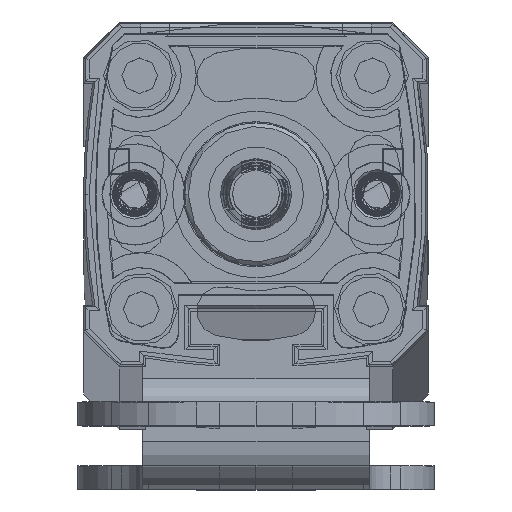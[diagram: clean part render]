
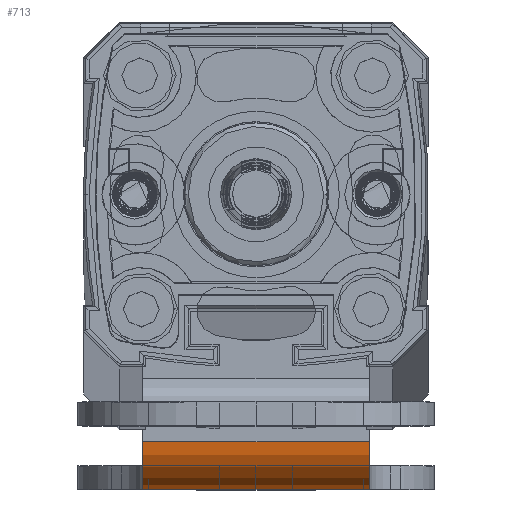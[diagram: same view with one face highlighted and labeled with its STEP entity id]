
A CAD part, top view. The second image highlights one B-rep face of the part: STEP entity #713.
In plain terms, the highlighted cylindrical face has radius 4 mm (diameter 8 mm), a partial arc.
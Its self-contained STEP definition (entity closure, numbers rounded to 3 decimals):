
#713 = ADVANCED_FACE ( 'NONE', ( #1710 ), #20596, .T. ) ;
#908 = DIRECTION ( 'NONE',  ( 1., 0., 0. ) ) ;
#1710 = FACE_OUTER_BOUND ( 'NONE', #4599, .T. ) ;
#2013 = ORIENTED_EDGE ( 'NONE', *, *, #13775, .F. ) ;
#2686 = LINE ( 'NONE', #14494, #30267 ) ;
#3778 = ORIENTED_EDGE ( 'NONE', *, *, #9357, .T. ) ;
#3940 = CARTESIAN_POINT ( 'NONE',  ( -9.512, -13., -173.797 ) ) ;
#4599 = EDGE_LOOP ( 'NONE', ( #2013, #24202, #9911, #22089, #16501, #3778 ) ) ;
#7099 = EDGE_CURVE ( 'NONE', #19679, #13654, #19650, .T. ) ;
#8502 = VERTEX_POINT ( 'NONE', #10909 ) ;
#8625 = CARTESIAN_POINT ( 'NONE',  ( 0., -9., -174. ) ) ;
#8843 = DIRECTION ( 'NONE',  ( -1., 0., 0. ) ) ;
#8938 = CARTESIAN_POINT ( 'NONE',  ( -9.5, -12.953, -173.392 ) ) ;
#9357 = EDGE_CURVE ( 'NONE', #10771, #27671, #16035, .T. ) ;
#9911 = ORIENTED_EDGE ( 'NONE', *, *, #27049, .F. ) ;
#10604 = CARTESIAN_POINT ( 'NONE',  ( 9.537, -13., -174. ) ) ;
#10743 = CIRCLE ( 'NONE', #29413, 4. ) ;
#10771 = VERTEX_POINT ( 'NONE', #13892 ) ;
#10872 = EDGE_CURVE ( 'NONE', #8502, #10771, #2686, .T. ) ;
#10909 = CARTESIAN_POINT ( 'NONE',  ( -9.537, -13., -174. ) ) ;
#11474 = CARTESIAN_POINT ( 'NONE',  ( -9.5, -9., -170. ) ) ;
#12563 = AXIS2_PLACEMENT_3D ( 'NONE', #30051, #8843, #15896 ) ;
#13098 = AXIS2_PLACEMENT_3D ( 'NONE', #8625, #17683, #15386 ) ;
#13334 = CARTESIAN_POINT ( 'NONE',  ( 9.5, -12.953, -173.392 ) ) ;
#13654 = VERTEX_POINT ( 'NONE', #22123 ) ;
#13775 = EDGE_CURVE ( 'NONE', #13654, #27671, #10743, .T. ) ;
#13892 = CARTESIAN_POINT ( 'NONE',  ( 9.537, -13., -174. ) ) ;
#14494 = CARTESIAN_POINT ( 'NONE',  ( 0., -13., -174. ) ) ;
#15019 = CIRCLE ( 'NONE', #12563, 4. ) ;
#15198 = CARTESIAN_POINT ( 'NONE',  ( 0., -9., -170. ) ) ;
#15306 = CARTESIAN_POINT ( 'NONE',  ( -9.5, -12.985, -173.594 ) ) ;
#15357 = DIRECTION ( 'NONE',  ( 1., 0., 0. ) ) ;
#15386 = DIRECTION ( 'NONE',  ( 0., 0., -1. ) ) ;
#15757 = CARTESIAN_POINT ( 'NONE',  ( -9.5, -12.953, -173.392 ) ) ;
#15896 = DIRECTION ( 'NONE',  ( 0., 0., -1. ) ) ;
#16035 = B_SPLINE_CURVE_WITH_KNOTS ( 'NONE', 3,
 ( #10604, #27065, #27213, #26908 ),
 .UNSPECIFIED., .F., .F.,
 ( 4, 4 ),
 ( 0., 0.001 ),
 .UNSPECIFIED. ) ;
#16501 = ORIENTED_EDGE ( 'NONE', *, *, #10872, .T. ) ;
#17683 = DIRECTION ( 'NONE',  ( 1., 0., 0. ) ) ;
#18255 = CARTESIAN_POINT ( 'NONE',  ( 9.5, -9., -174. ) ) ;
#19106 = DIRECTION ( 'NONE',  ( 1., 0., 0. ) ) ;
#19650 = LINE ( 'NONE', #15198, #28061 ) ;
#19679 = VERTEX_POINT ( 'NONE', #11474 ) ;
#20596 = CYLINDRICAL_SURFACE ( 'NONE', #13098, 4. ) ;
#22089 = ORIENTED_EDGE ( 'NONE', *, *, #28247, .T. ) ;
#22123 = CARTESIAN_POINT ( 'NONE',  ( 9.5, -9., -170. ) ) ;
#24202 = ORIENTED_EDGE ( 'NONE', *, *, #7099, .F. ) ;
#24697 = CARTESIAN_POINT ( 'NONE',  ( -9.537, -13., -174. ) ) ;
#25572 = B_SPLINE_CURVE_WITH_KNOTS ( 'NONE', 3,
 ( #15757, #15306, #3940, #24697 ),
 .UNSPECIFIED., .F., .F.,
 ( 4, 4 ),
 ( 0., 0.001 ),
 .UNSPECIFIED. ) ;
#26908 = CARTESIAN_POINT ( 'NONE',  ( 9.5, -12.953, -173.392 ) ) ;
#27049 = EDGE_CURVE ( 'NONE', #29471, #19679, #15019, .T. ) ;
#27065 = CARTESIAN_POINT ( 'NONE',  ( 9.512, -13., -173.797 ) ) ;
#27213 = CARTESIAN_POINT ( 'NONE',  ( 9.5, -12.985, -173.594 ) ) ;
#27354 = DIRECTION ( 'NONE',  ( 0., 0., -1. ) ) ;
#27671 = VERTEX_POINT ( 'NONE', #13334 ) ;
#28061 = VECTOR ( 'NONE', #908, 1000. ) ;
#28247 = EDGE_CURVE ( 'NONE', #29471, #8502, #25572, .T. ) ;
#29413 = AXIS2_PLACEMENT_3D ( 'NONE', #18255, #15357, #27354 ) ;
#29471 = VERTEX_POINT ( 'NONE', #8938 ) ;
#30051 = CARTESIAN_POINT ( 'NONE',  ( -9.5, -9., -174. ) ) ;
#30267 = VECTOR ( 'NONE', #19106, 1000. ) ;
